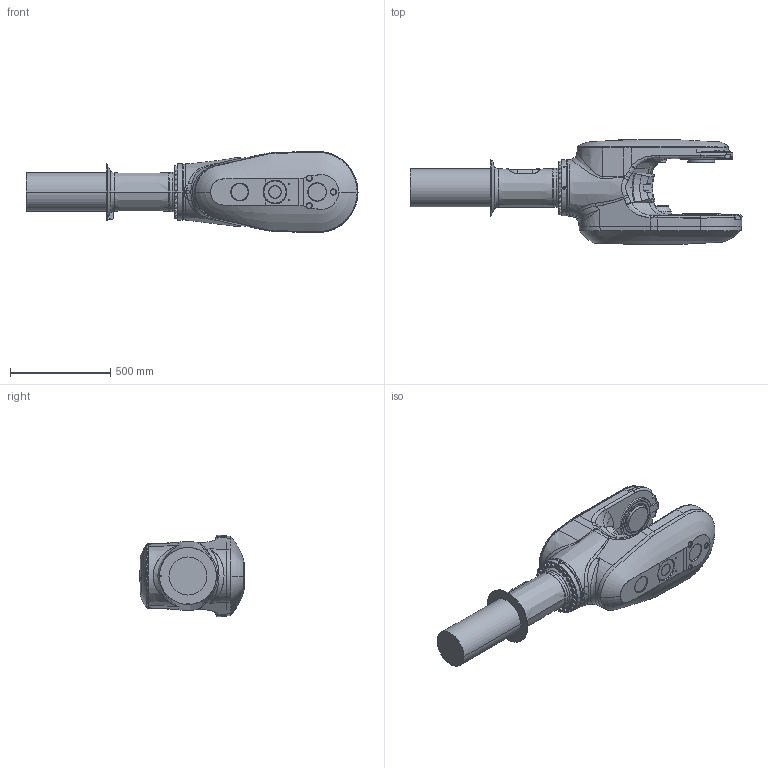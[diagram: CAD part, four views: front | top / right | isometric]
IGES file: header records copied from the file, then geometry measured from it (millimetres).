
Start section: SolidWorks IGES file using analytic representation for surfaces
Global section: file name: B:\DM\Robotics\SEROP_PROJ\Product Development\DevelopmentProjects\Manipulator_Modularity\04. Product Design\06. CAD\Amanda\7720 Lightweight models\IRB7720_620kg-290_OC_00_SW_J\IRB7720_All-290_OC_00_LINK04_CAD.IGS; native system: SolidWorks 2022; preprocessor: SolidWorks 2022; author: SEAMSTO1; date: 240119.105616; units: millimetre
Bounding box: 1658.54 x 520.5 x 406.41 mm (x, y, z)
Surface area: 2115435.7 mm2 (no closed solid volume)
Topology: 0 solids, 0 shells, 733 faces, 13151 edges, 13131 vertices
Faces by surface type: bspline 376, revolution 357
